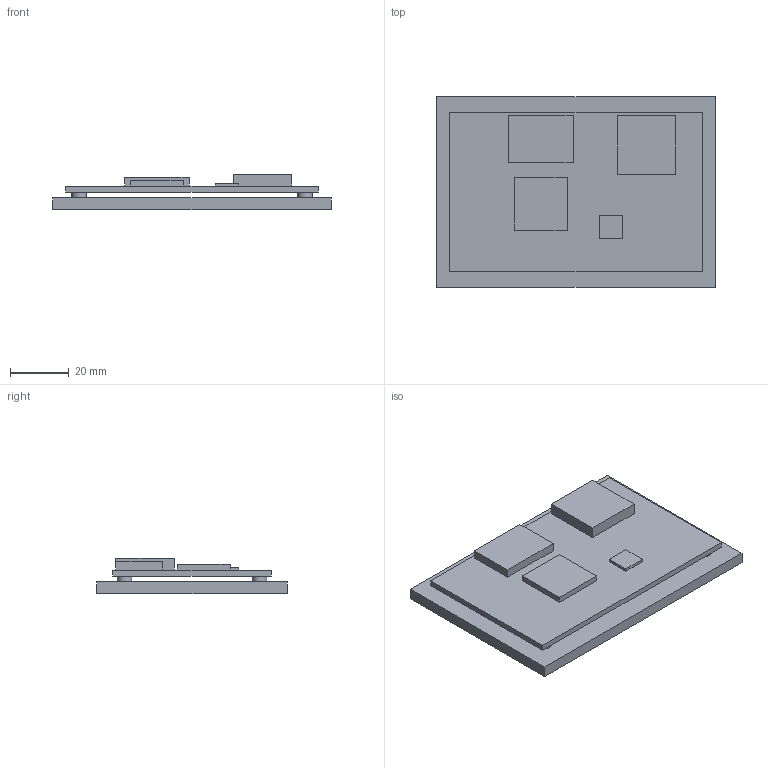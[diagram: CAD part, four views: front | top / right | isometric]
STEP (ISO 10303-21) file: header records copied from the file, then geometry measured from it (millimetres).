
FILE_DESCRIPTION(('FreeCAD Model'),'2;1');
FILE_NAME('Open CASCADE Shape Model','2026-10-22T00:32:17',('Author'),( ''),'Open CASCADE STEP processor 7.8','FreeCAD','Unknown');
FILE_SCHEMA(('AUTOMOTIVE_DESIGN { 1 0 10303 214 1 1 1 1 }'));
Length unit declared in the file: millimetre
Products named in the file (11): Flight computer 1.0.0; Base plate; Standoff; Standoff 2; Standoff 3; Standoff 4; Circuit board; Main processor; Radio; Motion sensor; GPS receiver
Assembly tree (10 placements, depth 2):
  Flight computer 1.0.0
    Base plate
    Standoff
    Standoff 2
    Standoff 3
    Standoff 4
    Circuit board
    Main processor
    Radio
    Motion sensor
    GPS receiver
Bounding box: 95 x 65 x 12 mm (x, y, z)
Volume: 37513.1 mm3; surface area: 26764.7 mm2
Topology: 10 solids, 10 shells, 48 faces, 84 edges, 56 vertices
Faces by surface type: plane 44, cylinder 4
Full cylindrical faces by diameter (mm): 5 x4
Entity records: 1308 total; most frequent: DIRECTION 210, CARTESIAN_POINT 199, ORIENTED_EDGE 168, EDGE_CURVE 84, LINE 76, VECTOR 76, AXIS2_PLACEMENT_3D 67, VERTEX_POINT 56
